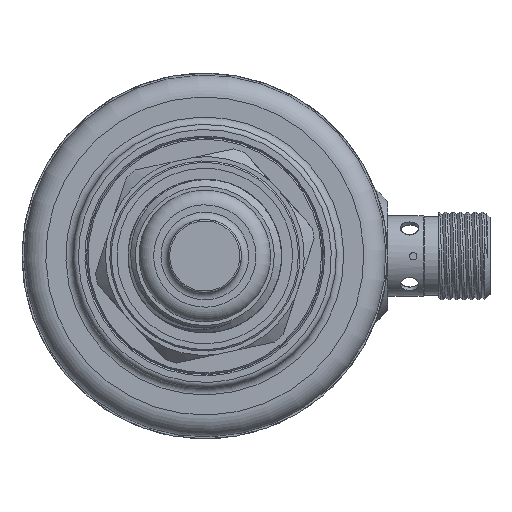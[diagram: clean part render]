
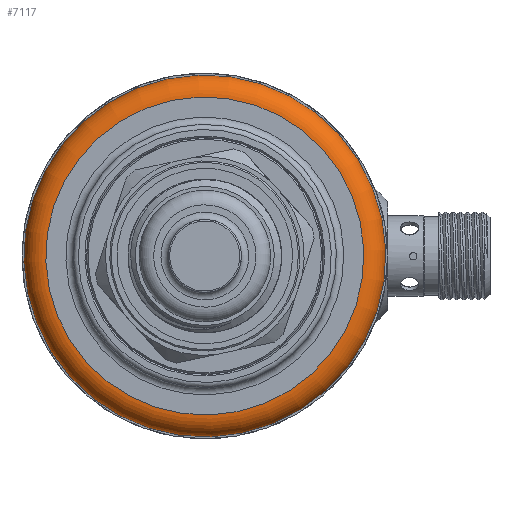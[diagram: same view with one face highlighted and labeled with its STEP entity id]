
A CAD part, front view. The second image highlights one B-rep face of the part: STEP entity #7117.
In plain terms, the highlighted toroidal (fillet/blend) face has major radius 21.75 mm and minor radius 3 mm.
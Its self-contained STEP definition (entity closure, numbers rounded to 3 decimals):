
#143 = ORIENTED_EDGE ( 'NONE', *, *, #15693, .F. ) ;
#1007 = EDGE_LOOP ( 'NONE', ( #1969 ) ) ;
#1927 = CARTESIAN_POINT ( 'NONE',  ( 21.75, 0., 45.5 ) ) ;
#1969 = ORIENTED_EDGE ( 'NONE', *, *, #13427, .F. ) ;
#2940 = CARTESIAN_POINT ( 'NONE',  ( 24.75, 0., 48.5 ) ) ;
#2976 = TOROIDAL_SURFACE ( 'NONE', #11992, 21.75, 3. ) ;
#3917 = AXIS2_PLACEMENT_3D ( 'NONE', #16726, #14189, #15718 ) ;
#3918 = DIRECTION ( 'NONE',  ( 1., 0., 0. ) ) ;
#3952 = FACE_OUTER_BOUND ( 'NONE', #1007, .T. ) ;
#4750 = VERTEX_POINT ( 'NONE', #1927 ) ;
#7117 = ADVANCED_FACE ( 'NONE', ( #7889, #3952 ), #2976, .T. ) ;
#7889 = FACE_OUTER_BOUND ( 'NONE', #11101, .T. ) ;
#9301 = CARTESIAN_POINT ( 'NONE',  ( 0., 0., 48.5 ) ) ;
#11101 = EDGE_LOOP ( 'NONE', ( #143 ) ) ;
#11824 = CIRCLE ( 'NONE', #13290, 24.75 ) ;
#11992 = AXIS2_PLACEMENT_3D ( 'NONE', #17629, #12080, #13543 ) ;
#12080 = DIRECTION ( 'NONE',  ( 0., 0., 1. ) ) ;
#12312 = DIRECTION ( 'NONE',  ( 0., 0., 1. ) ) ;
#13290 = AXIS2_PLACEMENT_3D ( 'NONE', #9301, #12312, #3918 ) ;
#13427 = EDGE_CURVE ( 'NONE', #15422, #15422, #11824, .T. ) ;
#13543 = DIRECTION ( 'NONE',  ( 1., 0., 0. ) ) ;
#14189 = DIRECTION ( 'NONE',  ( 0., 0., -1. ) ) ;
#15422 = VERTEX_POINT ( 'NONE', #2940 ) ;
#15693 = EDGE_CURVE ( 'NONE', #4750, #4750, #17903, .T. ) ;
#15718 = DIRECTION ( 'NONE',  ( 1., 0., 0. ) ) ;
#16726 = CARTESIAN_POINT ( 'NONE',  ( 0., 0., 45.5 ) ) ;
#17629 = CARTESIAN_POINT ( 'NONE',  ( 0., 0., 48.5 ) ) ;
#17903 = CIRCLE ( 'NONE', #3917, 21.75 ) ;
